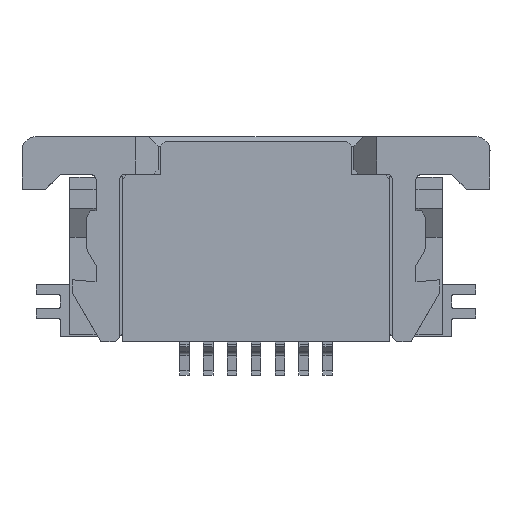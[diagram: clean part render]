
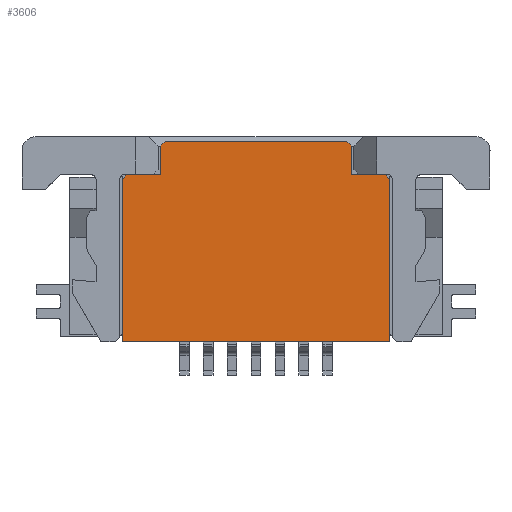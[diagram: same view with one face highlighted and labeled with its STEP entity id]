
A CAD part, top view. The second image highlights one B-rep face of the part: STEP entity #3606.
In plain terms, the highlighted planar face has unit normal (0, 0, 1).
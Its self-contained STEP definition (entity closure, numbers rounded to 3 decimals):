
#194 = CARTESIAN_POINT ( 'NONE',  ( -3.35, -3.35, 1.98 ) ) ;
#371 = ORIENTED_EDGE ( 'NONE', *, *, #9212, .T. ) ;
#439 = CARTESIAN_POINT ( 'NONE',  ( -6.5, -0.8, 1.98 ) ) ;
#454 = CARTESIAN_POINT ( 'NONE',  ( -0.5, -0.1, 1.98 ) ) ;
#463 = EDGE_CURVE ( 'NONE', #4749, #6616, #9398, .T. ) ;
#507 = DIRECTION ( 'NONE',  ( -1., 0., 0. ) ) ;
#621 = EDGE_CURVE ( 'NONE', #5818, #6390, #4075, .T. ) ;
#718 = PLANE ( 'NONE',  #4475 ) ;
#739 = VECTOR ( 'NONE', #8001, 1000. ) ;
#764 = ORIENTED_EDGE ( 'NONE', *, *, #621, .F. ) ;
#799 = EDGE_CURVE ( 'NONE', #2055, #5453, #3432, .T. ) ;
#1251 = LINE ( 'NONE', #454, #1293 ) ;
#1263 = CARTESIAN_POINT ( 'NONE',  ( -10.5, -0.8, 1.98 ) ) ;
#1293 = VECTOR ( 'NONE', #507, 1000. ) ;
#1363 = ORIENTED_EDGE ( 'NONE', *, *, #463, .T. ) ;
#1514 = EDGE_CURVE ( 'NONE', #6390, #4264, #9937, .T. ) ;
#1559 = LINE ( 'NONE', #10351, #8137 ) ;
#1638 = DIRECTION ( 'NONE',  ( -1., 0., 0. ) ) ;
#1767 = ORIENTED_EDGE ( 'NONE', *, *, #1514, .F. ) ;
#1860 = DIRECTION ( 'NONE',  ( 0.707, -0.707, 0. ) ) ;
#1967 = VECTOR ( 'NONE', #8049, 1000. ) ;
#2051 = VERTEX_POINT ( 'NONE', #7572 ) ;
#2055 = VERTEX_POINT ( 'NONE', #9232 ) ;
#2175 = CARTESIAN_POINT ( 'NONE',  ( -5.7, -4.3, 1.98 ) ) ;
#2320 = EDGE_CURVE ( 'NONE', #4222, #4264, #9754, .T. ) ;
#2416 = CARTESIAN_POINT ( 'NONE',  ( -11.3, 0., 1.98 ) ) ;
#2461 = CARTESIAN_POINT ( 'NONE',  ( -11.3, -4.3, 1.98 ) ) ;
#2501 = ORIENTED_EDGE ( 'NONE', *, *, #8817, .T. ) ;
#2620 = ORIENTED_EDGE ( 'NONE', *, *, #5154, .T. ) ;
#2649 = VERTEX_POINT ( 'NONE', #8080 ) ;
#2682 = CARTESIAN_POINT ( 'NONE',  ( -5.4, 4.9, 1.98 ) ) ;
#2724 = CARTESIAN_POINT ( 'NONE',  ( -5.7, -0.9, 1.98 ) ) ;
#2751 = DIRECTION ( 'NONE',  ( -0.707, -0.707, 0. ) ) ;
#3106 = DIRECTION ( 'NONE',  ( 0.707, -0.707, 0. ) ) ;
#3319 = VECTOR ( 'NONE', #2751, 1000. ) ;
#3432 = LINE ( 'NONE', #7567, #7526 ) ;
#3447 = CARTESIAN_POINT ( 'NONE',  ( -0.5, -4.3, 1.98 ) ) ;
#3448 = LINE ( 'NONE', #194, #5232 ) ;
#3478 = VECTOR ( 'NONE', #6856, 1000. ) ;
#3581 = VECTOR ( 'NONE', #1638, 1000. ) ;
#3606 = ADVANCED_FACE ( 'NONE', ( #8756 ), #718, .T. ) ;
#3921 = DIRECTION ( 'NONE',  ( 0., 0., 1. ) ) ;
#4047 = EDGE_CURVE ( 'NONE', #5227, #5818, #1559, .T. ) ;
#4075 = LINE ( 'NONE', #4764, #1967 ) ;
#4159 = LINE ( 'NONE', #2682, #5671 ) ;
#4212 = ORIENTED_EDGE ( 'NONE', *, *, #799, .F. ) ;
#4222 = VERTEX_POINT ( 'NONE', #6579 ) ;
#4264 = VERTEX_POINT ( 'NONE', #2461 ) ;
#4475 = AXIS2_PLACEMENT_3D ( 'NONE', #4714, #3921, #7895 ) ;
#4538 = CARTESIAN_POINT ( 'NONE',  ( -10.5, 0., 1.98 ) ) ;
#4585 = DIRECTION ( 'NONE',  ( 0., -1., 0. ) ) ;
#4714 = CARTESIAN_POINT ( 'NONE',  ( -0.5, 0., 1.98 ) ) ;
#4749 = VERTEX_POINT ( 'NONE', #1263 ) ;
#4764 = CARTESIAN_POINT ( 'NONE',  ( -5.7, 0., 1.98 ) ) ;
#5154 = EDGE_CURVE ( 'NONE', #2649, #5780, #1251, .T. ) ;
#5227 = VERTEX_POINT ( 'NONE', #5667 ) ;
#5232 = VECTOR ( 'NONE', #1860, 1000. ) ;
#5316 = EDGE_CURVE ( 'NONE', #5780, #2051, #4159, .T. ) ;
#5453 = VERTEX_POINT ( 'NONE', #439 ) ;
#5471 = CARTESIAN_POINT ( 'NONE',  ( -0.5, -0.8, 1.98 ) ) ;
#5667 = CARTESIAN_POINT ( 'NONE',  ( -5.8, -0.8, 1.98 ) ) ;
#5671 = VECTOR ( 'NONE', #9106, 1000. ) ;
#5718 = EDGE_LOOP ( 'NONE', ( #1767, #764, #5986, #7692, #4212, #9256, #2620, #5932, #371, #1363, #2501, #7705 ) ) ;
#5780 = VERTEX_POINT ( 'NONE', #8231 ) ;
#5818 = VERTEX_POINT ( 'NONE', #2724 ) ;
#5932 = ORIENTED_EDGE ( 'NONE', *, *, #5316, .T. ) ;
#5986 = ORIENTED_EDGE ( 'NONE', *, *, #4047, .F. ) ;
#6390 = VERTEX_POINT ( 'NONE', #2175 ) ;
#6579 = CARTESIAN_POINT ( 'NONE',  ( -11.3, -0.9, 1.98 ) ) ;
#6616 = VERTEX_POINT ( 'NONE', #7557 ) ;
#6856 = DIRECTION ( 'NONE',  ( 0., -1., 0. ) ) ;
#7046 = EDGE_CURVE ( 'NONE', #2649, #2055, #3448, .T. ) ;
#7455 = VECTOR ( 'NONE', #8381, 1000. ) ;
#7526 = VECTOR ( 'NONE', #4585, 1000. ) ;
#7557 = CARTESIAN_POINT ( 'NONE',  ( -11.2, -0.8, 1.98 ) ) ;
#7567 = CARTESIAN_POINT ( 'NONE',  ( -6.5, 0., 1.98 ) ) ;
#7572 = CARTESIAN_POINT ( 'NONE',  ( -10.5, -0.2, 1.98 ) ) ;
#7577 = LINE ( 'NONE', #8209, #7455 ) ;
#7692 = ORIENTED_EDGE ( 'NONE', *, *, #8722, .T. ) ;
#7705 = ORIENTED_EDGE ( 'NONE', *, *, #2320, .T. ) ;
#7895 = DIRECTION ( 'NONE',  ( 1., 0., 0. ) ) ;
#8001 = DIRECTION ( 'NONE',  ( -1., 0., 0. ) ) ;
#8049 = DIRECTION ( 'NONE',  ( 0., -1., 0. ) ) ;
#8080 = CARTESIAN_POINT ( 'NONE',  ( -6.6, -0.1, 1.98 ) ) ;
#8137 = VECTOR ( 'NONE', #3106, 1000. ) ;
#8209 = CARTESIAN_POINT ( 'NONE',  ( 0., -0.8, 1.98 ) ) ;
#8231 = CARTESIAN_POINT ( 'NONE',  ( -10.4, -0.1, 1.98 ) ) ;
#8381 = DIRECTION ( 'NONE',  ( -1., 0., 0. ) ) ;
#8540 = CARTESIAN_POINT ( 'NONE',  ( -5.45, 4.95, 1.98 ) ) ;
#8722 = EDGE_CURVE ( 'NONE', #5227, #5453, #7577, .T. ) ;
#8756 = FACE_OUTER_BOUND ( 'NONE', #5718, .T. ) ;
#8817 = EDGE_CURVE ( 'NONE', #6616, #4222, #10199, .T. ) ;
#9106 = DIRECTION ( 'NONE',  ( -0.707, -0.707, 0. ) ) ;
#9212 = EDGE_CURVE ( 'NONE', #2051, #4749, #9330, .T. ) ;
#9232 = CARTESIAN_POINT ( 'NONE',  ( -6.5, -0.2, 1.98 ) ) ;
#9256 = ORIENTED_EDGE ( 'NONE', *, *, #7046, .F. ) ;
#9330 = LINE ( 'NONE', #4538, #3478 ) ;
#9398 = LINE ( 'NONE', #5471, #739 ) ;
#9417 = VECTOR ( 'NONE', #9806, 1000. ) ;
#9754 = LINE ( 'NONE', #2416, #9417 ) ;
#9806 = DIRECTION ( 'NONE',  ( 0., -1., 0. ) ) ;
#9937 = LINE ( 'NONE', #3447, #3581 ) ;
#10199 = LINE ( 'NONE', #8540, #3319 ) ;
#10351 = CARTESIAN_POINT ( 'NONE',  ( -3.3, -3.3, 1.98 ) ) ;
